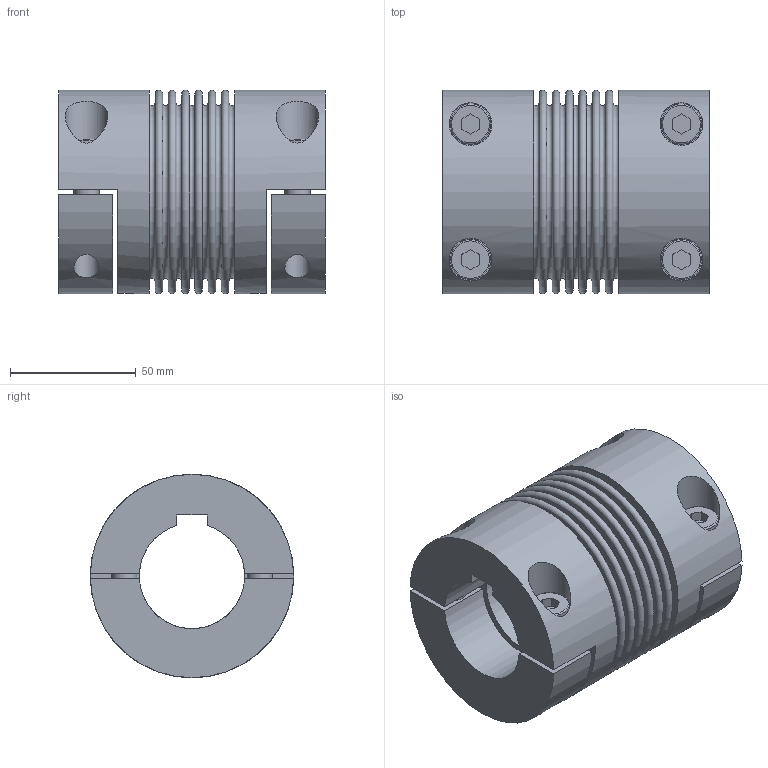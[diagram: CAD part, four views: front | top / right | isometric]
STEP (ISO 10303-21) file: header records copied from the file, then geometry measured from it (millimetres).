
FILE_DESCRIPTION(/* description */ ('STEP AP214'),/* implementation_level */ '2;1');
FILE_NAME(/* name */ 'C:\Diequa Files\DieQua Coupling\BCS\STP\BCS.80.106.#.#.stp',/* time_stamp */ '2018-11-15T09:30:50-06:00',/* author */ ('DiequaCAD'),/* organization */ (''),/* preprocessor_version */ 'ST-DEVELOPER v17.2',/* originating_system */ 'Autodesk Inventor 2019',/* authorisation */ ' ');
FILE_SCHEMA (('AUTOMOTIVE_DESIGN { 1 0 10303 214 3 1 1 }'));
Length unit declared in the file: millimetre
Products named in the file (1): BKH_80_106_42_PFN_42_PFN_16
Bounding box: 106 x 81.1 x 81.1 mm (x, y, z)
Volume: 311907.6 mm3; surface area: 85489.9 mm2
Topology: 1 solids, 1 shells, 120 faces, 280 edges, 196 vertices
Faces by surface type: plane 78, cylinder 25, torus 17
Full cylindrical faces by diameter (mm): 10 x8, 16 x4, 17 x4, 56 x1, 81 x2
Entity records: 3851 total; most frequent: CARTESIAN_POINT 897, DIRECTION 635, ORIENTED_EDGE 560, EDGE_CURVE 280, AXIS2_PLACEMENT_3D 246, VERTEX_POINT 196, EDGE_LOOP 160, LINE 143
